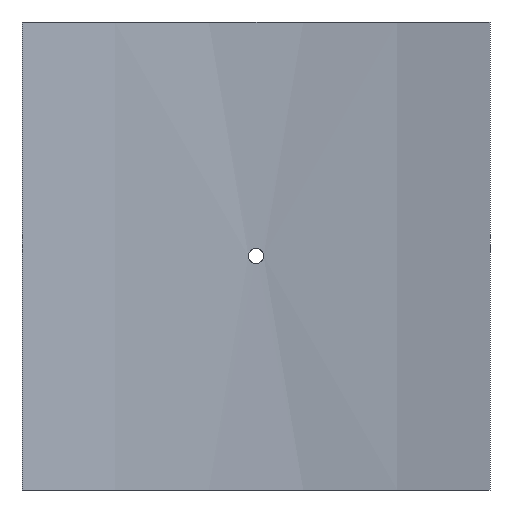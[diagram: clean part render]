
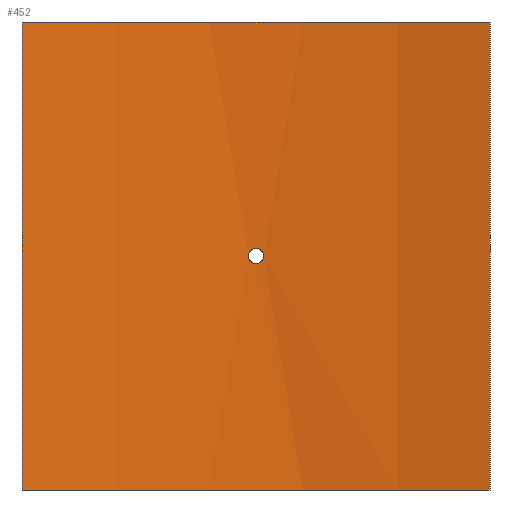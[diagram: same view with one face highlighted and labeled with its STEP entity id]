
A CAD part, front view. The second image highlights one B-rep face of the part: STEP entity #452.
In plain terms, the highlighted cylindrical face has radius 600 mm (diameter 1200 mm), a partial arc.
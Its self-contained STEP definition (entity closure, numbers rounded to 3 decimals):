
#19=B_SPLINE_CURVE_WITH_KNOTS('',3,(#788,#789,#790,#791,#792,#793,#794,
#795,#796,#797,#798,#799,#800,#801,#802,#803,#804,#805,#806,#807,#808,#809,
#810,#811,#812,#813,#814,#815,#816,#817,#818,#819,#820,#821),
 .UNSPECIFIED.,.T.,.F.,(4,2,2,2,2,2,2,2,2,2,2,2,2,2,2,2,4),(0.,0.181,
0.362,0.542,0.723,0.904,
1.085,1.266,1.446,1.627,1.808,
1.989,2.17,2.351,2.531,2.712,
2.893),.UNSPECIFIED.);
#43=LINE('',#1065,#62);
#44=LINE('',#1068,#63);
#62=VECTOR('',#661,10.);
#63=VECTOR('',#664,10.);
#76=CYLINDRICAL_SURFACE('',#530,600.);
#88=FACE_BOUND('',#167,.T.);
#127=FACE_OUTER_BOUND('',#166,.T.);
#166=EDGE_LOOP('',(#405,#406,#407,#408));
#167=EDGE_LOOP('',(#409));
#201=CIRCLE('',#529,600.);
#202=CIRCLE('',#531,600.);
#219=VERTEX_POINT('',#786);
#242=VERTEX_POINT('',#1058);
#243=VERTEX_POINT('',#1060);
#244=VERTEX_POINT('',#1064);
#245=VERTEX_POINT('',#1066);
#267=EDGE_CURVE('',#219,#219,#19,.T.);
#299=EDGE_CURVE('',#242,#243,#201,.T.);
#301=EDGE_CURVE('',#244,#242,#43,.T.);
#302=EDGE_CURVE('',#245,#244,#202,.T.);
#303=EDGE_CURVE('',#245,#243,#44,.T.);
#405=ORIENTED_EDGE('',*,*,#301,.F.);
#406=ORIENTED_EDGE('',*,*,#302,.F.);
#407=ORIENTED_EDGE('',*,*,#303,.T.);
#408=ORIENTED_EDGE('',*,*,#299,.F.);
#409=ORIENTED_EDGE('',*,*,#267,.T.);
#452=ADVANCED_FACE('',(#127,#88),#76,.F.);
#529=AXIS2_PLACEMENT_3D('',#1061,#656,#657);
#530=AXIS2_PLACEMENT_3D('',#1063,#659,#660);
#531=AXIS2_PLACEMENT_3D('',#1067,#662,#663);
#656=DIRECTION('center_axis',(0.,0.,1.));
#657=DIRECTION('ref_axis',(0.246,0.969,0.));
#659=DIRECTION('center_axis',(0.,0.,1.));
#660=DIRECTION('ref_axis',(0.246,0.969,0.));
#661=DIRECTION('',(0.,0.,-1.));
#662=DIRECTION('center_axis',(0.,0.,-1.));
#663=DIRECTION('ref_axis',(0.246,0.969,0.));
#664=DIRECTION('',(0.,0.,-1.));
#786=CARTESIAN_POINT('',(4.8,599.981,0.));
#788=CARTESIAN_POINT('Ctrl Pts',(4.8,599.981,0.));
#789=CARTESIAN_POINT('Ctrl Pts',(4.8,599.981,-0.603));
#790=CARTESIAN_POINT('Ctrl Pts',(4.68,599.982,-1.246));
#791=CARTESIAN_POINT('Ctrl Pts',(4.19,599.985,-2.428));
#792=CARTESIAN_POINT('Ctrl Pts',(3.82,599.988,-2.968));
#793=CARTESIAN_POINT('Ctrl Pts',(2.968,599.993,-3.82));
#794=CARTESIAN_POINT('Ctrl Pts',(2.428,599.995,-4.19));
#795=CARTESIAN_POINT('Ctrl Pts',(1.246,599.999,-4.68));
#796=CARTESIAN_POINT('Ctrl Pts',(0.603,600.,-4.8));
#797=CARTESIAN_POINT('Ctrl Pts',(-0.603,600.,-4.8));
#798=CARTESIAN_POINT('Ctrl Pts',(-1.246,599.999,-4.68));
#799=CARTESIAN_POINT('Ctrl Pts',(-2.428,599.995,-4.19));
#800=CARTESIAN_POINT('Ctrl Pts',(-2.968,599.993,-3.82));
#801=CARTESIAN_POINT('Ctrl Pts',(-3.82,599.988,-2.968));
#802=CARTESIAN_POINT('Ctrl Pts',(-4.19,599.985,-2.428));
#803=CARTESIAN_POINT('Ctrl Pts',(-4.68,599.982,-1.246));
#804=CARTESIAN_POINT('Ctrl Pts',(-4.8,599.981,-0.603));
#805=CARTESIAN_POINT('Ctrl Pts',(-4.8,599.981,0.603));
#806=CARTESIAN_POINT('Ctrl Pts',(-4.68,599.982,1.246));
#807=CARTESIAN_POINT('Ctrl Pts',(-4.19,599.985,2.428));
#808=CARTESIAN_POINT('Ctrl Pts',(-3.82,599.988,2.968));
#809=CARTESIAN_POINT('Ctrl Pts',(-2.968,599.993,3.82));
#810=CARTESIAN_POINT('Ctrl Pts',(-2.428,599.995,4.19));
#811=CARTESIAN_POINT('Ctrl Pts',(-1.246,599.999,4.68));
#812=CARTESIAN_POINT('Ctrl Pts',(-0.603,600.,4.8));
#813=CARTESIAN_POINT('Ctrl Pts',(0.603,600.,4.8));
#814=CARTESIAN_POINT('Ctrl Pts',(1.246,599.999,4.68));
#815=CARTESIAN_POINT('Ctrl Pts',(2.428,599.995,4.19));
#816=CARTESIAN_POINT('Ctrl Pts',(2.968,599.993,3.82));
#817=CARTESIAN_POINT('Ctrl Pts',(3.82,599.988,2.968));
#818=CARTESIAN_POINT('Ctrl Pts',(4.19,599.985,2.428));
#819=CARTESIAN_POINT('Ctrl Pts',(4.68,599.982,1.246));
#820=CARTESIAN_POINT('Ctrl Pts',(4.8,599.981,0.603));
#821=CARTESIAN_POINT('Ctrl Pts',(4.8,599.981,0.));
#1058=CARTESIAN_POINT('',(147.5,581.587,-147.5));
#1060=CARTESIAN_POINT('',(-147.5,581.587,-147.5));
#1061=CARTESIAN_POINT('Origin',(0.,0.,
-147.5));
#1063=CARTESIAN_POINT('Origin',(0.,0.,
0.));
#1064=CARTESIAN_POINT('',(147.5,581.587,147.5));
#1065=CARTESIAN_POINT('',(147.5,581.587,0.));
#1066=CARTESIAN_POINT('',(-147.5,581.587,147.5));
#1067=CARTESIAN_POINT('Origin',(0.,0.,
147.5));
#1068=CARTESIAN_POINT('',(-147.5,581.587,0.));
